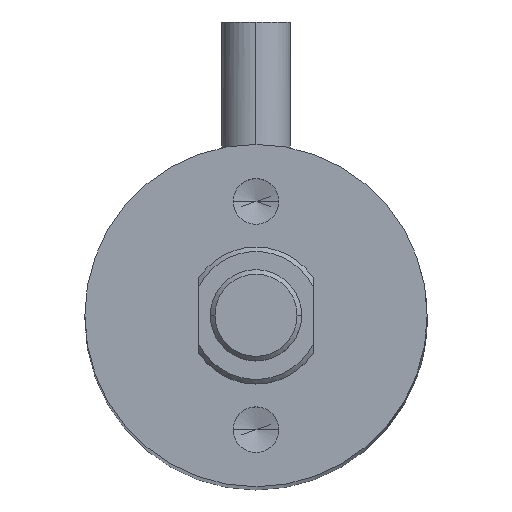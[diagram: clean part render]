
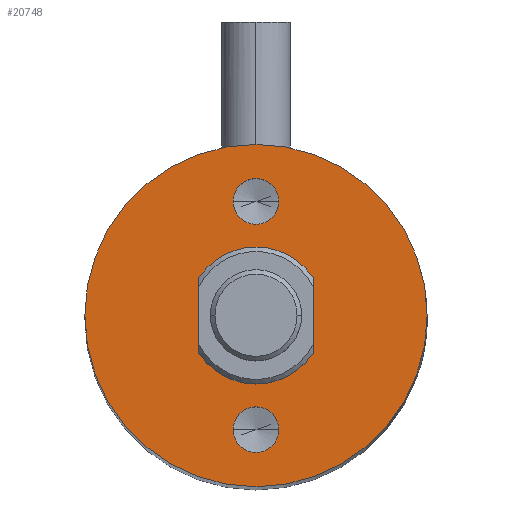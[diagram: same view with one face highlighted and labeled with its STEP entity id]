
A CAD part, top view. The second image highlights one B-rep face of the part: STEP entity #20748.
In plain terms, the highlighted planar face has unit normal (0, 0, 1).
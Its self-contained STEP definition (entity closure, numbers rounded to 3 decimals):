
#483 = CARTESIAN_POINT ( 'NONE',  ( 7.5, 0., 82.5 ) ) ;
#1123 = VERTEX_POINT ( 'NONE', #46166 ) ;
#1134 = LINE ( 'NONE', #27119, #21751 ) ;
#1416 = AXIS2_PLACEMENT_3D ( 'NONE', #39208, #46898, #51476 ) ;
#1473 = VERTEX_POINT ( 'NONE', #9207 ) ;
#1546 = DIRECTION ( 'NONE',  ( 0., 0., 1. ) ) ;
#2092 = DIRECTION ( 'NONE',  ( 1., 0., 0. ) ) ;
#2287 = CARTESIAN_POINT ( 'NONE',  ( 0., 0., 82.5 ) ) ;
#2533 = VERTEX_POINT ( 'NONE', #9670 ) ;
#3209 = CIRCLE ( 'NONE', #51289, 1. ) ;
#3525 = DIRECTION ( 'NONE',  ( 0., 0., 1. ) ) ;
#4657 = AXIS2_PLACEMENT_3D ( 'NONE', #49952, #22128, #25944 ) ;
#6147 = DIRECTION ( 'NONE',  ( 1., 0., 0. ) ) ;
#6909 = FACE_BOUND ( 'NONE', #28720, .T. ) ;
#8373 = CARTESIAN_POINT ( 'NONE',  ( 2.5, 1.658, 82.5 ) ) ;
#9094 = CARTESIAN_POINT ( 'NONE',  ( 0., 0., 82.5 ) ) ;
#9207 = CARTESIAN_POINT ( 'NONE',  ( 2.5, -1.658, 82.5 ) ) ;
#9223 = DIRECTION ( 'NONE',  ( 0., 1., 0. ) ) ;
#9236 = ORIENTED_EDGE ( 'NONE', *, *, #42824, .F. ) ;
#9670 = CARTESIAN_POINT ( 'NONE',  ( -2.5, 1.658, 82.5 ) ) ;
#9753 = ORIENTED_EDGE ( 'NONE', *, *, #43037, .F. ) ;
#9854 = ORIENTED_EDGE ( 'NONE', *, *, #31266, .F. ) ;
#10693 = FACE_BOUND ( 'NONE', #49381, .T. ) ;
#10735 = CIRCLE ( 'NONE', #45905, 3. ) ;
#11453 = CARTESIAN_POINT ( 'NONE',  ( -7.5, 0., 82.5 ) ) ;
#11582 = DIRECTION ( 'NONE',  ( 1., 0., 0. ) ) ;
#11827 = DIRECTION ( 'NONE',  ( 0., -1., 0. ) ) ;
#11913 = PLANE ( 'NONE',  #24219 ) ;
#12291 = ORIENTED_EDGE ( 'NONE', *, *, #24650, .F. ) ;
#13143 = EDGE_CURVE ( 'NONE', #19779, #1473, #17088, .T. ) ;
#13764 = CARTESIAN_POINT ( 'NONE',  ( -2.5, -6.39, 82.5 ) ) ;
#16333 = FACE_BOUND ( 'NONE', #44374, .T. ) ;
#17088 = CIRCLE ( 'NONE', #1416, 3. ) ;
#17446 = LINE ( 'NONE', #13764, #51787 ) ;
#18530 = AXIS2_PLACEMENT_3D ( 'NONE', #39854, #35704, #19801 ) ;
#19070 = DIRECTION ( 'NONE',  ( 0., 0., 1. ) ) ;
#19779 = VERTEX_POINT ( 'NONE', #22514 ) ;
#19801 = DIRECTION ( 'NONE',  ( 1., 0., 0. ) ) ;
#20748 = ADVANCED_FACE ( 'NONE', ( #10693, #36934, #16333, #6909 ), #11913, .T. ) ;
#21242 = CIRCLE ( 'NONE', #18530, 1. ) ;
#21751 = VECTOR ( 'NONE', #11827, 1000. ) ;
#22087 = EDGE_CURVE ( 'NONE', #29352, #33582, #23693, .T. ) ;
#22128 = DIRECTION ( 'NONE',  ( 0., 0., 1. ) ) ;
#22356 = ORIENTED_EDGE ( 'NONE', *, *, #13143, .F. ) ;
#22514 = CARTESIAN_POINT ( 'NONE',  ( -2.5, -1.658, 82.5 ) ) ;
#23693 = CIRCLE ( 'NONE', #35976, 7.5 ) ;
#24219 = AXIS2_PLACEMENT_3D ( 'NONE', #27028, #3525, #39108 ) ;
#24605 = AXIS2_PLACEMENT_3D ( 'NONE', #34367, #50118, #2092 ) ;
#24650 = EDGE_CURVE ( 'NONE', #50108, #1123, #32484, .T. ) ;
#24850 = ORIENTED_EDGE ( 'NONE', *, *, #45540, .T. ) ;
#25222 = VERTEX_POINT ( 'NONE', #35160 ) ;
#25944 = DIRECTION ( 'NONE',  ( 1., 0., 0. ) ) ;
#27028 = CARTESIAN_POINT ( 'NONE',  ( 0., 0., 82.5 ) ) ;
#27119 = CARTESIAN_POINT ( 'NONE',  ( 2.5, -6.39, 82.5 ) ) ;
#27965 = ORIENTED_EDGE ( 'NONE', *, *, #22087, .T. ) ;
#28720 = EDGE_LOOP ( 'NONE', ( #12291, #9753 ) ) ;
#29352 = VERTEX_POINT ( 'NONE', #11453 ) ;
#30315 = CARTESIAN_POINT ( 'NONE',  ( 1., -5., 82.5 ) ) ;
#30451 = EDGE_CURVE ( 'NONE', #19779, #2533, #17446, .T. ) ;
#31046 = ORIENTED_EDGE ( 'NONE', *, *, #36802, .T. ) ;
#31266 = EDGE_CURVE ( 'NONE', #42241, #25222, #48028, .T. ) ;
#32484 = CIRCLE ( 'NONE', #24605, 1. ) ;
#33582 = VERTEX_POINT ( 'NONE', #483 ) ;
#33846 = CARTESIAN_POINT ( 'NONE',  ( 0., 5., 82.5 ) ) ;
#34367 = CARTESIAN_POINT ( 'NONE',  ( 0., 5., 82.5 ) ) ;
#35160 = CARTESIAN_POINT ( 'NONE',  ( -1., -5., 82.5 ) ) ;
#35704 = DIRECTION ( 'NONE',  ( 0., 0., 1. ) ) ;
#35976 = AXIS2_PLACEMENT_3D ( 'NONE', #9094, #41132, #37346 ) ;
#36802 = EDGE_CURVE ( 'NONE', #42998, #1473, #1134, .T. ) ;
#36934 = FACE_OUTER_BOUND ( 'NONE', #38726, .T. ) ;
#37330 = DIRECTION ( 'NONE',  ( 1., 0., 0. ) ) ;
#37346 = DIRECTION ( 'NONE',  ( 1., 0., 0. ) ) ;
#38242 = DIRECTION ( 'NONE',  ( 0., 0., 1. ) ) ;
#38726 = EDGE_LOOP ( 'NONE', ( #27965, #24850 ) ) ;
#38759 = CIRCLE ( 'NONE', #41893, 7.5 ) ;
#39108 = DIRECTION ( 'NONE',  ( 1., 0., 0. ) ) ;
#39208 = CARTESIAN_POINT ( 'NONE',  ( 0., 0., 82.5 ) ) ;
#39854 = CARTESIAN_POINT ( 'NONE',  ( 0., -5., 82.5 ) ) ;
#41132 = DIRECTION ( 'NONE',  ( 0., 0., 1. ) ) ;
#41672 = ORIENTED_EDGE ( 'NONE', *, *, #48297, .F. ) ;
#41893 = AXIS2_PLACEMENT_3D ( 'NONE', #2287, #38242, #6147 ) ;
#42241 = VERTEX_POINT ( 'NONE', #30315 ) ;
#42824 = EDGE_CURVE ( 'NONE', #42998, #2533, #10735, .T. ) ;
#42944 = CARTESIAN_POINT ( 'NONE',  ( 0., 0., 82.5 ) ) ;
#42998 = VERTEX_POINT ( 'NONE', #8373 ) ;
#43037 = EDGE_CURVE ( 'NONE', #1123, #50108, #3209, .T. ) ;
#43048 = ORIENTED_EDGE ( 'NONE', *, *, #30451, .T. ) ;
#44374 = EDGE_LOOP ( 'NONE', ( #9854, #41672 ) ) ;
#45540 = EDGE_CURVE ( 'NONE', #33582, #29352, #38759, .T. ) ;
#45905 = AXIS2_PLACEMENT_3D ( 'NONE', #42944, #19070, #11582 ) ;
#46166 = CARTESIAN_POINT ( 'NONE',  ( -1., 5., 82.5 ) ) ;
#46898 = DIRECTION ( 'NONE',  ( 0., 0., 1. ) ) ;
#48028 = CIRCLE ( 'NONE', #4657, 1. ) ;
#48297 = EDGE_CURVE ( 'NONE', #25222, #42241, #21242, .T. ) ;
#49381 = EDGE_LOOP ( 'NONE', ( #31046, #22356, #43048, #9236 ) ) ;
#49892 = CARTESIAN_POINT ( 'NONE',  ( 1., 5., 82.5 ) ) ;
#49952 = CARTESIAN_POINT ( 'NONE',  ( 0., -5., 82.5 ) ) ;
#50108 = VERTEX_POINT ( 'NONE', #49892 ) ;
#50118 = DIRECTION ( 'NONE',  ( 0., 0., 1. ) ) ;
#51289 = AXIS2_PLACEMENT_3D ( 'NONE', #33846, #1546, #37330 ) ;
#51476 = DIRECTION ( 'NONE',  ( 1., 0., 0. ) ) ;
#51787 = VECTOR ( 'NONE', #9223, 1000. ) ;
